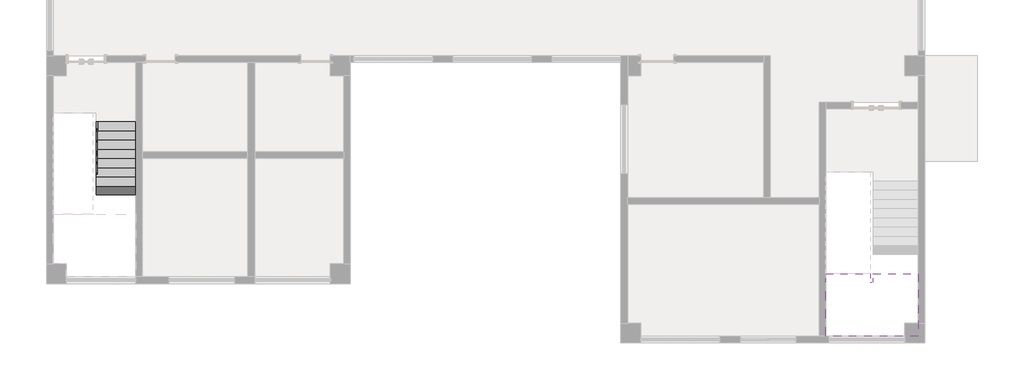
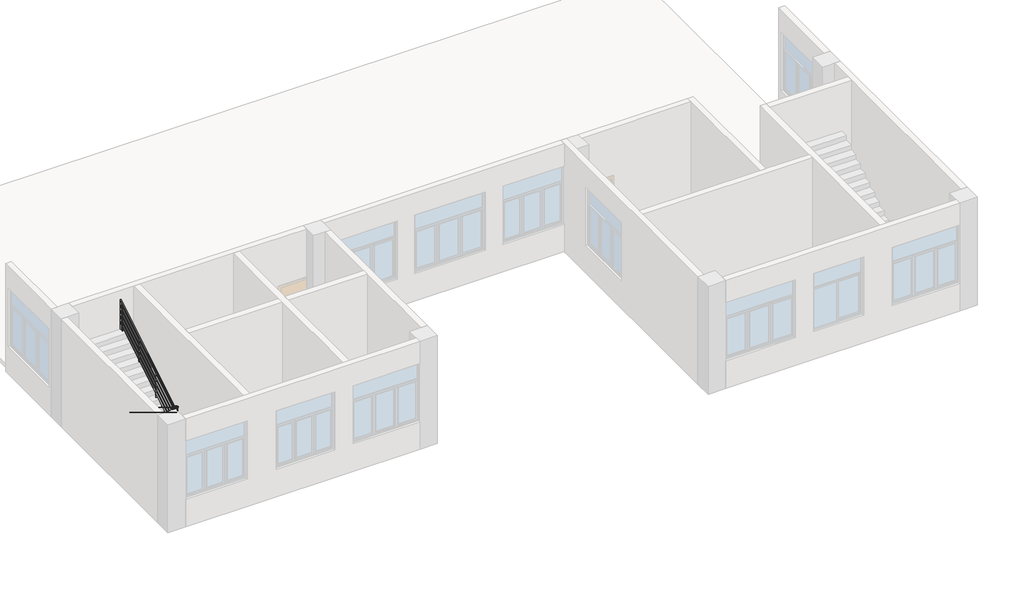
# One storey, part 2 of 3: 1 railing, 1 slab, 1 stair flight.
"""IFC4 building model written with IfcOpenShell, lengths in millimetres."""

from ifc_helpers import new_model, si_unit, point, frame, frame_2d, origin, place, context, project, spatial, circle_curve, ellipse_curve, trimmed, segment, composite_curve, outline, extrude, faceted_brep, element, save
from ifc_brep_helpers import plane_surface, cylinder_surface, advanced_brep

model = new_model("IFC4")

# Units and contexts
model_context = context("Model", 3, world=origin())
ifc_project = project(units=[si_unit("LENGTHUNIT", "METRE", prefix="MILLI")], contexts=[model_context])

# Site, building, storey
site = spatial("IfcSite", under=ifc_project)
building = spatial("IfcBuilding", under=site)
storey = spatial("IfcBuildingStorey", under=building, Name="标高 4", Elevation=7100.0)

# Railing
placement = place(None, origin())
element("IfcRailing", 1, ObjectType="900mm 圆管", at=placement, inside=storey, context=model_context, shape_type="SolidModel", body=[
    advanced_brep(
    [(-11176.3675258, -3836.6725016, 8146.183692), (-11136.3675258, -3836.6725016, 8146.183692), (-11176.3675258, -6629.9251242, 9837.7497212), (-11136.3675258, -6664.1401717, 9858.4700139)],
    [
        (0, 1, ellipse_curve(frame((-11156.3675258, -3836.6725016, 8146.183692), z_axis=(0.0, 1.0, 0.0), x_axis=(0.0, 0.0, -1.0)), 23.3815254, 20.0)),
        (1, 0, ellipse_curve(frame((-11156.3675258, -3836.6725016, 8146.183692), z_axis=(0.0, 1.0, 0.0), x_axis=(0.0, 0.0, -1.0)), 23.3815254, 20.0)),
        (2, 3, ellipse_curve(frame((-11156.3675258, -6647.032648, 9848.1098676), z_axis=(-0.707106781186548, -0.6048423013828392, 0.3662864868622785), x_axis=(-0.7071067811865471, 0.6048423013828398, -0.3662864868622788)), 28.2842712, 20.0)),
        (3, 2, ellipse_curve(frame((-11156.3675258, -6647.032648, 9848.1098676), z_axis=(-0.707106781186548, -0.6048423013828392, 0.3662864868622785), x_axis=(-0.7071067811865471, 0.6048423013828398, -0.3662864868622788)), 28.2842712, 20.0)),
        (0, 2),
        (3, 1),
    ],
    [
        plane_surface(frame((-11156.3675258, -3836.6725016, 8169.5652174), z_axis=(0.0, 1.0, 0.0), x_axis=(0.0, 0.0, -1.0))),
        plane_surface(frame((-11156.3675258, -6636.6725016, 9865.2173913), z_axis=(-0.707106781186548, -0.6048423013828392, 0.3662864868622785), x_axis=(0.7071067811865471, -0.60484230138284, 0.3662864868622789))),
        cylinder_surface(frame((-11156.3675258, -3847.032648, 8152.4576937), z_axis=(0.0, 0.8553761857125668, -0.518007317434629), x_axis=(1.0, 0.0, 0.0)), 20.0),
    ],
    [
        (0, [[1, 2]]),
        (1, [[3, 4]]),
        (2, [[-1, 5, -4, 6]]),
        (2, [[-2, -6, -3, -5]]),
    ],
),
    advanced_brep(
    [(-11183.8351959, -6642.0725016, 9845.2173913), (-11149.6201485, -6682.0725016, 9845.2173913), (-11307.1675258, -6642.0725016, 9845.2173913), (-11307.1675258, -6682.0725016, 9845.2173913)],
    [
        (0, 1, ellipse_curve(frame((-11166.7276722, -6662.0725016, 9845.2173913), z_axis=(0.707106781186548, 0.6048423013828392, -0.3662864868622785), x_axis=(0.707106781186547, -0.60484230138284, 0.36628648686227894)), 28.2842712, 20.0)),
        (1, 0, ellipse_curve(frame((-11166.7276722, -6662.0725016, 9845.2173913), z_axis=(0.707106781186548, 0.6048423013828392, -0.3662864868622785), x_axis=(0.707106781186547, -0.60484230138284, 0.36628648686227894)), 28.2842712, 20.0)),
        (2, 3, ellipse_curve(frame((-11307.1675258, -6662.0725016, 9845.2173913), z_axis=(-0.7071067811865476, 0.0, 0.7071067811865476), x_axis=(0.7071067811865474, 0.0, 0.7071067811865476)), 28.2842712, 20.0)),
        (3, 2, ellipse_curve(frame((-11307.1675258, -6662.0725016, 9845.2173913), z_axis=(-0.7071067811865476, 0.0, 0.7071067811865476), x_axis=(0.7071067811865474, 0.0, 0.7071067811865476)), 28.2842712, 20.0)),
        (0, 2),
        (3, 1),
    ],
    [
        plane_surface(frame((-11156.3675258, -6662.0725016, 9865.2173913), z_axis=(0.707106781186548, 0.6048423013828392, -0.3662864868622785), x_axis=(0.7071067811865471, -0.60484230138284, 0.3662864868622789))),
        plane_surface(frame((-11287.1675258, -6662.0725016, 9865.2173913), z_axis=(-0.7071067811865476, 0.0, 0.7071067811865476), x_axis=(0.7071067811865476, 0.0, 0.7071067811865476))),
        cylinder_surface(frame((-11156.3675258, -6662.0725016, 9845.2173913), z_axis=(1.0, 0.0, 0.0), x_axis=(0.0, -1.0, 0.0)), 20.0),
    ],
    [
        (0, [[1, 2]]),
        (1, [[3, 4]]),
        (2, [[-1, 5, -4, 6]]),
        (2, [[-2, -6, -3, -5]]),
    ],
),
    advanced_brep(
    [(-11307.1675258, -6642.0725016, 9845.2173913), (-11307.1675258, -6682.0725016, 9845.2173913), (-11307.1675258, -6642.0725016, 9984.7493716), (-11307.1675258, -6682.0725016, 10007.2888199)],
    [
        (0, 1, ellipse_curve(frame((-11307.1675258, -6662.0725016, 9845.2173913), z_axis=(0.7071067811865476, 0.0, -0.7071067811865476), x_axis=(-0.7071067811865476, 0.0, -0.7071067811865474)), 28.2842712, 20.0)),
        (1, 0, ellipse_curve(frame((-11307.1675258, -6662.0725016, 9845.2173913), z_axis=(0.7071067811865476, 0.0, -0.7071067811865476), x_axis=(-0.7071067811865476, 0.0, -0.7071067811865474)), 28.2842712, 20.0)),
        (2, 3, ellipse_curve(frame((-11307.1675258, -6662.0725016, 9996.0190957), z_axis=(0.0, 0.49091378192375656, 0.8712081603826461), x_axis=(0.0, 0.8712081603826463, -0.49091378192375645)), 22.9566261, 20.0)),
        (3, 2, ellipse_curve(frame((-11307.1675258, -6662.0725016, 9996.0190957), z_axis=(0.0, 0.49091378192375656, 0.8712081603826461), x_axis=(0.0, 0.8712081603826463, -0.49091378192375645)), 22.9566261, 20.0)),
        (0, 2),
        (3, 1),
    ],
    [
        plane_surface(frame((-11307.1675258, -6662.0725016, 9845.2173913), z_axis=(0.7071067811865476, 0.0, -0.7071067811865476), x_axis=(0.7071067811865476, 0.0, 0.7071067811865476))),
        plane_surface(frame((-11307.1675258, -6662.0725016, 9996.0190957), z_axis=(0.0, 0.49091378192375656, 0.8712081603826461), x_axis=(1.0, 0.0, 0.0))),
        cylinder_surface(frame((-11307.1675258, -6662.0725016, 9845.2173913), z_axis=(0.0, 0.0, -1.0), x_axis=(0.0, -1.0, 0.0)), 20.0),
    ],
    [
        (0, [[1, 2]]),
        (1, [[3, 4]]),
        (2, [[-1, 5, -4, 6]]),
        (2, [[-2, -6, -3, -5]]),
    ],
),
    advanced_brep(
    [(-11287.1675258, -6662.0725016, 9996.0190957), (-11327.1675258, -6662.0725016, 9996.0190957), (-11287.1675258, -3556.6725016, 11876.6184746), (-11327.1675258, -3556.6725016, 11876.6184746)],
    [
        (0, 1, ellipse_curve(frame((-11307.1675258, -6662.0725016, 9996.0190957), z_axis=(0.0, -0.49091378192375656, -0.8712081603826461), x_axis=(0.0, -0.8712081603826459, 0.4909137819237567)), 22.9566261, 20.0)),
        (1, 0, ellipse_curve(frame((-11307.1675258, -6662.0725016, 9996.0190957), z_axis=(0.0, -0.49091378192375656, -0.8712081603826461), x_axis=(0.0, -0.8712081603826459, 0.4909137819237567)), 22.9566261, 20.0)),
        (2, 3, ellipse_curve(frame((-11307.1675258, -3556.6725016, 11876.6184746), z_axis=(0.0, 1.0, 0.0), x_axis=(0.0, 0.0, -1.0)), 23.3815254, 20.0)),
        (3, 2, ellipse_curve(frame((-11307.1675258, -3556.6725016, 11876.6184746), z_axis=(0.0, 1.0, 0.0), x_axis=(0.0, 0.0, -1.0)), 23.3815254, 20.0)),
        (0, 2),
        (3, 1),
    ],
    [
        plane_surface(frame((-11307.1675258, -6682.0725016, 10007.2888199), z_axis=(0.0, -0.49091378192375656, -0.8712081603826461), x_axis=(1.0, 0.0, 0.0))),
        plane_surface(frame((-11307.1675258, -3556.6725016, 11900.0), z_axis=(0.0, 1.0, 0.0), x_axis=(0.0, 0.0, 1.0))),
        cylinder_surface(frame((-11307.1675258, -6671.7123553, 9990.1812962), z_axis=(0.0, -0.8553761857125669, -0.5180073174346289), x_axis=(-1.0, 0.0, 0.0)), 20.0),
    ],
    [
        (0, [[1, 2]]),
        (1, [[3, 4]]),
        (2, [[-1, 5, -4, 6]]),
        (2, [[-2, -6, -3, -5]]),
    ],
),
    advanced_brep(
    [(-11141.3675258, -3836.6725016, 7952.0290734), (-11171.3675258, -3836.6725016, 7952.0290734), (-11141.3675258, -6640.8603907, 9650.2173913), (-11171.3675258, -6640.8603907, 9650.2173913), (-11141.3675258, -6647.0725016, 9650.2173913), (-11171.3675258, -6647.0725016, 9650.2173913)],
    [
        (0, 1, ellipse_curve(frame((-11156.3675258, -3836.6725016, 7952.0290734), z_axis=(0.0, 1.0, 0.0), x_axis=(0.0, 0.0, -1.0)), 17.536144, 15.0)),
        (1, 0, ellipse_curve(frame((-11156.3675258, -3836.6725016, 7952.0290734), z_axis=(0.0, 1.0, 0.0), x_axis=(0.0, 0.0, -1.0)), 17.536144, 15.0)),
        (0, 2),
        (2, 3, ellipse_curve(frame((-11156.3675258, -6640.8603907, 9650.2173913), z_axis=(0.0, 0.9631656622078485, -0.26890873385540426), x_axis=(0.0, -0.26890873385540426, -0.9631656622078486)), 15.5736449, 15.0)),
        (3, 1),
        (3, 2, ellipse_curve(frame((-11156.3675258, -6640.8603907, 9650.2173913), z_axis=(0.0, 0.9631656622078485, -0.26890873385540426), x_axis=(0.0, -0.26890873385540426, -0.9631656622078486)), 15.5736449, 15.0)),
        (4, 5, circle_curve(frame((-11156.3675258, -6647.0725016, 9650.2173913), z_axis=(0.0, -1.0, 0.0), x_axis=(-1.0, 0.0, 0.0)), 15.0)),
        (5, 4, circle_curve(frame((-11156.3675258, -6647.0725016, 9650.2173913), z_axis=(0.0, -1.0, 0.0), x_axis=(-1.0, 0.0, 0.0)), 15.0)),
        (2, 4),
        (5, 3),
    ],
    [
        plane_surface(frame((-11156.3675258, -3836.6725016, 7969.5652174), z_axis=(0.0, 1.0, 0.0), x_axis=(0.0, 0.0, -1.0))),
        cylinder_surface(frame((-11156.3675258, -3844.4426114, 7956.7345746), z_axis=(0.0, 0.8553761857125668, -0.518007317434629), x_axis=(-1.0, 0.0, 0.0)), 15.0),
        plane_surface(frame((-11156.3675258, -6647.0725016, 9665.2173913), z_axis=(0.0, -1.0, 0.0), x_axis=(0.0, 0.0, -1.0))),
        cylinder_surface(frame((-11156.3675258, -6636.6725016, 9650.2173913), z_axis=(0.0, 1.0, 0.0), x_axis=(-1.0, 0.0, 0.0)), 15.0),
    ],
    [
        (0, [[1, 2]]),
        (1, [[-1, 3, 4, 5]]),
        (1, [[-2, -5, 6, -3]]),
        (2, [[7, 8]]),
        (3, [[-4, 9, -8, 10]]),
        (3, [[-6, -10, -7, -9]]),
    ],
),
    advanced_brep(
    [(-11141.3675258, -3836.6725016, 7752.0290734), (-11171.3675258, -3836.6725016, 7752.0290734), (-11141.3675258, -6640.8603907, 9450.2173913), (-11171.3675258, -6640.8603907, 9450.2173913), (-11141.3675258, -6647.0725016, 9450.2173913), (-11171.3675258, -6647.0725016, 9450.2173913)],
    [
        (0, 1, ellipse_curve(frame((-11156.3675258, -3836.6725016, 7752.0290734), z_axis=(0.0, 1.0, 0.0), x_axis=(0.0, 0.0, -1.0)), 17.536144, 15.0)),
        (1, 0, ellipse_curve(frame((-11156.3675258, -3836.6725016, 7752.0290734), z_axis=(0.0, 1.0, 0.0), x_axis=(0.0, 0.0, -1.0)), 17.536144, 15.0)),
        (0, 2),
        (2, 3, ellipse_curve(frame((-11156.3675258, -6640.8603907, 9450.2173913), z_axis=(0.0, 0.9631656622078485, -0.26890873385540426), x_axis=(0.0, -0.26890873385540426, -0.9631656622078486)), 15.5736449, 15.0)),
        (3, 1),
        (3, 2, ellipse_curve(frame((-11156.3675258, -6640.8603907, 9450.2173913), z_axis=(0.0, 0.9631656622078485, -0.26890873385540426), x_axis=(0.0, -0.26890873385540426, -0.9631656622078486)), 15.5736449, 15.0)),
        (4, 5, circle_curve(frame((-11156.3675258, -6647.0725016, 9450.2173913), z_axis=(0.0, -1.0, 0.0), x_axis=(-1.0, 0.0, 0.0)), 15.0)),
        (5, 4, circle_curve(frame((-11156.3675258, -6647.0725016, 9450.2173913), z_axis=(0.0, -1.0, 0.0), x_axis=(-1.0, 0.0, 0.0)), 15.0)),
        (2, 4),
        (5, 3),
    ],
    [
        plane_surface(frame((-11156.3675258, -3836.6725016, 7769.5652174), z_axis=(0.0, 1.0, 0.0), x_axis=(0.0, 0.0, -1.0))),
        cylinder_surface(frame((-11156.3675258, -3844.4426114, 7756.7345746), z_axis=(0.0, 0.8553761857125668, -0.518007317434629), x_axis=(-1.0, 0.0, 0.0)), 15.0),
        plane_surface(frame((-11156.3675258, -6647.0725016, 9465.2173913), z_axis=(0.0, -1.0, 0.0), x_axis=(0.0, 0.0, -1.0))),
        cylinder_surface(frame((-11156.3675258, -6636.6725016, 9450.2173913), z_axis=(0.0, 1.0, 0.0), x_axis=(-1.0, 0.0, 0.0)), 15.0),
    ],
    [
        (0, [[1, 2]]),
        (1, [[-1, 3, 4, 5]]),
        (1, [[-2, -5, 6, -3]]),
        (2, [[7, 8]]),
        (3, [[-4, 9, -8, 10]]),
        (3, [[-6, -10, -7, -9]]),
    ],
),
    advanced_brep(
    [(-11141.3675258, -3836.6725016, 7552.0290734), (-11171.3675258, -3836.6725016, 7552.0290734), (-11141.3675258, -6640.8603907, 9250.2173913), (-11171.3675258, -6640.8603907, 9250.2173913), (-11141.3675258, -6647.0725016, 9250.2173913), (-11171.3675258, -6647.0725016, 9250.2173913)],
    [
        (0, 1, ellipse_curve(frame((-11156.3675258, -3836.6725016, 7552.0290734), z_axis=(0.0, 1.0, 0.0), x_axis=(0.0, 0.0, -1.0)), 17.536144, 15.0)),
        (1, 0, ellipse_curve(frame((-11156.3675258, -3836.6725016, 7552.0290734), z_axis=(0.0, 1.0, 0.0), x_axis=(0.0, 0.0, -1.0)), 17.536144, 15.0)),
        (0, 2),
        (2, 3, ellipse_curve(frame((-11156.3675258, -6640.8603907, 9250.2173913), z_axis=(0.0, 0.9631656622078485, -0.26890873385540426), x_axis=(0.0, -0.26890873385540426, -0.9631656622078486)), 15.5736449, 15.0)),
        (3, 1),
        (3, 2, ellipse_curve(frame((-11156.3675258, -6640.8603907, 9250.2173913), z_axis=(0.0, 0.9631656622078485, -0.26890873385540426), x_axis=(0.0, -0.26890873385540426, -0.9631656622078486)), 15.5736449, 15.0)),
        (4, 5, circle_curve(frame((-11156.3675258, -6647.0725016, 9250.2173913), z_axis=(0.0, -1.0, 0.0), x_axis=(-1.0, 0.0, 0.0)), 15.0)),
        (5, 4, circle_curve(frame((-11156.3675258, -6647.0725016, 9250.2173913), z_axis=(0.0, -1.0, 0.0), x_axis=(-1.0, 0.0, 0.0)), 15.0)),
        (2, 4),
        (5, 3),
    ],
    [
        plane_surface(frame((-11156.3675258, -3836.6725016, 7569.5652174), z_axis=(0.0, 1.0, 0.0), x_axis=(0.0, 0.0, -1.0))),
        cylinder_surface(frame((-11156.3675258, -3844.4426114, 7556.7345746), z_axis=(0.0, 0.8553761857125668, -0.518007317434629), x_axis=(-1.0, 0.0, 0.0)), 15.0),
        plane_surface(frame((-11156.3675258, -6647.0725016, 9265.2173913), z_axis=(0.0, -1.0, 0.0), x_axis=(0.0, 0.0, -1.0))),
        cylinder_surface(frame((-11156.3675258, -6636.6725016, 9250.2173913), z_axis=(0.0, 1.0, 0.0), x_axis=(-1.0, 0.0, 0.0)), 15.0),
    ],
    [
        (0, [[1, 2]]),
        (1, [[-1, 3, 4, 5]]),
        (1, [[-2, -5, 6, -3]]),
        (2, [[7, 8]]),
        (3, [[-4, 9, -8, 10]]),
        (3, [[-6, -10, -7, -9]]),
    ],
),
    advanced_brep(
    [(-11141.3675258, -3836.6725016, 7352.0290734), (-11171.3675258, -3836.6725016, 7352.0290734), (-11141.3675258, -6640.8603907, 9050.2173913), (-11171.3675258, -6640.8603907, 9050.2173913), (-11141.3675258, -6647.0725016, 9050.2173913), (-11171.3675258, -6647.0725016, 9050.2173913)],
    [
        (0, 1, ellipse_curve(frame((-11156.3675258, -3836.6725016, 7352.0290734), z_axis=(0.0, 1.0, 0.0), x_axis=(0.0, 0.0, -1.0)), 17.536144, 15.0)),
        (1, 0, ellipse_curve(frame((-11156.3675258, -3836.6725016, 7352.0290734), z_axis=(0.0, 1.0, 0.0), x_axis=(0.0, 0.0, -1.0)), 17.536144, 15.0)),
        (0, 2),
        (2, 3, ellipse_curve(frame((-11156.3675258, -6640.8603907, 9050.2173913), z_axis=(0.0, 0.9631656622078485, -0.26890873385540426), x_axis=(0.0, -0.26890873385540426, -0.9631656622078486)), 15.5736449, 15.0)),
        (3, 1),
        (3, 2, ellipse_curve(frame((-11156.3675258, -6640.8603907, 9050.2173913), z_axis=(0.0, 0.9631656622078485, -0.26890873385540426), x_axis=(0.0, -0.26890873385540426, -0.9631656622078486)), 15.5736449, 15.0)),
        (4, 5, circle_curve(frame((-11156.3675258, -6647.0725016, 9050.2173913), z_axis=(0.0, -1.0, 0.0), x_axis=(-1.0, 0.0, 0.0)), 15.0)),
        (5, 4, circle_curve(frame((-11156.3675258, -6647.0725016, 9050.2173913), z_axis=(0.0, -1.0, 0.0), x_axis=(-1.0, 0.0, 0.0)), 15.0)),
        (2, 4),
        (5, 3),
    ],
    [
        plane_surface(frame((-11156.3675258, -3836.6725016, 7369.5652174), z_axis=(0.0, 1.0, 0.0), x_axis=(0.0, 0.0, -1.0))),
        cylinder_surface(frame((-11156.3675258, -3844.4426114, 7356.7345746), z_axis=(0.0, 0.8553761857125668, -0.518007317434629), x_axis=(-1.0, 0.0, 0.0)), 15.0),
        plane_surface(frame((-11156.3675258, -6647.0725016, 9065.2173913), z_axis=(0.0, -1.0, 0.0), x_axis=(0.0, 0.0, -1.0))),
        cylinder_surface(frame((-11156.3675258, -6636.6725016, 9050.2173913), z_axis=(0.0, 1.0, 0.0), x_axis=(-1.0, 0.0, 0.0)), 15.0),
    ],
    [
        (0, [[1, 2]]),
        (1, [[-1, 3, 4, 5]]),
        (1, [[-2, -5, 6, -3]]),
        (2, [[7, 8]]),
        (3, [[-4, 9, -8, 10]]),
        (3, [[-6, -10, -7, -9]]),
    ],
),
    advanced_brep(
    [(-11141.3675258, -6677.0725016, 9650.2173913), (-11141.3675258, -6647.0725016, 9650.2173913), (-11292.1675258, -6677.0725016, 9650.2173913), (-11292.1675258, -6647.0725016, 9650.2173913)],
    [
        (0, 1, circle_curve(frame((-11141.3675258, -6662.0725016, 9650.2173913), z_axis=(1.0, 0.0, 0.0), x_axis=(0.0, 1.0, 0.0)), 15.0)),
        (1, 0, circle_curve(frame((-11141.3675258, -6662.0725016, 9650.2173913), z_axis=(1.0, 0.0, 0.0), x_axis=(0.0, 1.0, 0.0)), 15.0)),
        (2, 3, circle_curve(frame((-11292.1675258, -6662.0725016, 9650.2173913), z_axis=(-1.0, 0.0, 0.0), x_axis=(0.0, 1.0, 0.0)), 15.0)),
        (3, 2, circle_curve(frame((-11292.1675258, -6662.0725016, 9650.2173913), z_axis=(-1.0, 0.0, 0.0), x_axis=(0.0, 1.0, 0.0)), 15.0)),
        (0, 2),
        (3, 1),
    ],
    [
        plane_surface(frame((-11141.3675258, -6662.0725016, 9665.2173913), z_axis=(1.0, 0.0, 0.0), x_axis=(0.0, -1.0, 0.0))),
        plane_surface(frame((-11292.1675258, -6662.0725016, 9665.2173913), z_axis=(-1.0, 0.0, 0.0), x_axis=(0.0, -1.0, 0.0))),
        cylinder_surface(frame((-11141.3675258, -6662.0725016, 9650.2173913), z_axis=(1.0, 0.0, 0.0), x_axis=(0.0, 1.0, 0.0)), 15.0),
    ],
    [
        (0, [[1, 2]]),
        (1, [[3, 4]]),
        (2, [[-1, 5, -4, 6]]),
        (2, [[-2, -6, -3, -5]]),
    ],
),
    advanced_brep(
    [(-11322.1675258, -6677.0725016, 9792.7806261), (-11292.1675258, -6677.0725016, 9792.7806261), (-11322.1675258, -3556.6725016, 11682.463856), (-11292.1675258, -3556.6725016, 11682.463856)],
    [
        (0, 1, ellipse_curve(frame((-11307.1675258, -6677.0725016, 9792.7806261), z_axis=(0.0, -1.0, 0.0), x_axis=(0.0, 0.0, -1.0)), 17.536144, 15.0)),
        (1, 0, ellipse_curve(frame((-11307.1675258, -6677.0725016, 9792.7806261), z_axis=(0.0, -1.0, 0.0), x_axis=(0.0, 0.0, -1.0)), 17.536144, 15.0)),
        (2, 3, ellipse_curve(frame((-11307.1675258, -3556.6725016, 11682.463856), z_axis=(0.0, 1.0, 0.0), x_axis=(0.0, 0.0, -1.0)), 17.536144, 15.0)),
        (3, 2, ellipse_curve(frame((-11307.1675258, -3556.6725016, 11682.463856), z_axis=(0.0, 1.0, 0.0), x_axis=(0.0, 0.0, -1.0)), 17.536144, 15.0)),
        (0, 2),
        (3, 1),
    ],
    [
        plane_surface(frame((-11307.1675258, -6677.0725016, 9810.3167702), z_axis=(0.0, -1.0, 0.0), x_axis=(0.0, 0.0, 1.0))),
        plane_surface(frame((-11307.1675258, -3556.6725016, 11700.0), z_axis=(0.0, 1.0, 0.0), x_axis=(0.0, 0.0, 1.0))),
        cylinder_surface(frame((-11307.1675258, -6669.3023918, 9797.4861274), z_axis=(0.0, -0.8553761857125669, -0.5180073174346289), x_axis=(1.0, 0.0, 0.0)), 15.0),
    ],
    [
        (0, [[1, 2]]),
        (1, [[3, 4]]),
        (2, [[-1, 5, -4, 6]]),
        (2, [[-2, -6, -3, -5]]),
    ],
),
    advanced_brep(
    [(-11141.3675258, -6677.0725016, 9450.2173913), (-11141.3675258, -6647.0725016, 9450.2173913), (-11292.1675258, -6677.0725016, 9450.2173913), (-11292.1675258, -6647.0725016, 9450.2173913)],
    [
        (0, 1, circle_curve(frame((-11141.3675258, -6662.0725016, 9450.2173913), z_axis=(1.0, 0.0, 0.0), x_axis=(0.0, 1.0, 0.0)), 15.0)),
        (1, 0, circle_curve(frame((-11141.3675258, -6662.0725016, 9450.2173913), z_axis=(1.0, 0.0, 0.0), x_axis=(0.0, 1.0, 0.0)), 15.0)),
        (2, 3, circle_curve(frame((-11292.1675258, -6662.0725016, 9450.2173913), z_axis=(-1.0, 0.0, 0.0), x_axis=(0.0, 1.0, 0.0)), 15.0)),
        (3, 2, circle_curve(frame((-11292.1675258, -6662.0725016, 9450.2173913), z_axis=(-1.0, 0.0, 0.0), x_axis=(0.0, 1.0, 0.0)), 15.0)),
        (0, 2),
        (3, 1),
    ],
    [
        plane_surface(frame((-11141.3675258, -6662.0725016, 9465.2173913), z_axis=(1.0, 0.0, 0.0), x_axis=(0.0, -1.0, 0.0))),
        plane_surface(frame((-11292.1675258, -6662.0725016, 9465.2173913), z_axis=(-1.0, 0.0, 0.0), x_axis=(0.0, -1.0, 0.0))),
        cylinder_surface(frame((-11141.3675258, -6662.0725016, 9450.2173913), z_axis=(1.0, 0.0, 0.0), x_axis=(0.0, 1.0, 0.0)), 15.0),
    ],
    [
        (0, [[1, 2]]),
        (1, [[3, 4]]),
        (2, [[-1, 5, -4, 6]]),
        (2, [[-2, -6, -3, -5]]),
    ],
),
    advanced_brep(
    [(-11322.1675258, -6677.0725016, 9592.7806261), (-11292.1675258, -6677.0725016, 9592.7806261), (-11322.1675258, -3556.6725016, 11482.463856), (-11292.1675258, -3556.6725016, 11482.463856)],
    [
        (0, 1, ellipse_curve(frame((-11307.1675258, -6677.0725016, 9592.7806261), z_axis=(0.0, -1.0, 0.0), x_axis=(0.0, 0.0, -1.0)), 17.536144, 15.0)),
        (1, 0, ellipse_curve(frame((-11307.1675258, -6677.0725016, 9592.7806261), z_axis=(0.0, -1.0, 0.0), x_axis=(0.0, 0.0, -1.0)), 17.536144, 15.0)),
        (2, 3, ellipse_curve(frame((-11307.1675258, -3556.6725016, 11482.463856), z_axis=(0.0, 1.0, 0.0), x_axis=(0.0, 0.0, -1.0)), 17.536144, 15.0)),
        (3, 2, ellipse_curve(frame((-11307.1675258, -3556.6725016, 11482.463856), z_axis=(0.0, 1.0, 0.0), x_axis=(0.0, 0.0, -1.0)), 17.536144, 15.0)),
        (0, 2),
        (3, 1),
    ],
    [
        plane_surface(frame((-11307.1675258, -6677.0725016, 9610.3167702), z_axis=(0.0, -1.0, 0.0), x_axis=(0.0, 0.0, 1.0))),
        plane_surface(frame((-11307.1675258, -3556.6725016, 11500.0), z_axis=(0.0, 1.0, 0.0), x_axis=(0.0, 0.0, 1.0))),
        cylinder_surface(frame((-11307.1675258, -6669.3023918, 9597.4861274), z_axis=(0.0, -0.8553761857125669, -0.5180073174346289), x_axis=(1.0, 0.0, 0.0)), 15.0),
    ],
    [
        (0, [[1, 2]]),
        (1, [[3, 4]]),
        (2, [[-1, 5, -4, 6]]),
        (2, [[-2, -6, -3, -5]]),
    ],
),
    advanced_brep(
    [(-11141.3675258, -6677.0725016, 9250.2173913), (-11141.3675258, -6647.0725016, 9250.2173913), (-11292.1675258, -6677.0725016, 9250.2173913), (-11292.1675258, -6647.0725016, 9250.2173913)],
    [
        (0, 1, circle_curve(frame((-11141.3675258, -6662.0725016, 9250.2173913), z_axis=(1.0, 0.0, 0.0), x_axis=(0.0, 1.0, 0.0)), 15.0)),
        (1, 0, circle_curve(frame((-11141.3675258, -6662.0725016, 9250.2173913), z_axis=(1.0, 0.0, 0.0), x_axis=(0.0, 1.0, 0.0)), 15.0)),
        (2, 3, circle_curve(frame((-11292.1675258, -6662.0725016, 9250.2173913), z_axis=(-1.0, 0.0, 0.0), x_axis=(0.0, 1.0, 0.0)), 15.0)),
        (3, 2, circle_curve(frame((-11292.1675258, -6662.0725016, 9250.2173913), z_axis=(-1.0, 0.0, 0.0), x_axis=(0.0, 1.0, 0.0)), 15.0)),
        (0, 2),
        (3, 1),
    ],
    [
        plane_surface(frame((-11141.3675258, -6662.0725016, 9265.2173913), z_axis=(1.0, 0.0, 0.0), x_axis=(0.0, -1.0, 0.0))),
        plane_surface(frame((-11292.1675258, -6662.0725016, 9265.2173913), z_axis=(-1.0, 0.0, 0.0), x_axis=(0.0, -1.0, 0.0))),
        cylinder_surface(frame((-11141.3675258, -6662.0725016, 9250.2173913), z_axis=(1.0, 0.0, 0.0), x_axis=(0.0, 1.0, 0.0)), 15.0),
    ],
    [
        (0, [[1, 2]]),
        (1, [[3, 4]]),
        (2, [[-1, 5, -4, 6]]),
        (2, [[-2, -6, -3, -5]]),
    ],
),
    advanced_brep(
    [(-11322.1675258, -6677.0725016, 9392.7806261), (-11292.1675258, -6677.0725016, 9392.7806261), (-11322.1675258, -3556.6725016, 11282.463856), (-11292.1675258, -3556.6725016, 11282.463856)],
    [
        (0, 1, ellipse_curve(frame((-11307.1675258, -6677.0725016, 9392.7806261), z_axis=(0.0, -1.0, 0.0), x_axis=(0.0, 0.0, -1.0)), 17.536144, 15.0)),
        (1, 0, ellipse_curve(frame((-11307.1675258, -6677.0725016, 9392.7806261), z_axis=(0.0, -1.0, 0.0), x_axis=(0.0, 0.0, -1.0)), 17.536144, 15.0)),
        (2, 3, ellipse_curve(frame((-11307.1675258, -3556.6725016, 11282.463856), z_axis=(0.0, 1.0, 0.0), x_axis=(0.0, 0.0, -1.0)), 17.536144, 15.0)),
        (3, 2, ellipse_curve(frame((-11307.1675258, -3556.6725016, 11282.463856), z_axis=(0.0, 1.0, 0.0), x_axis=(0.0, 0.0, -1.0)), 17.536144, 15.0)),
        (0, 2),
        (3, 1),
    ],
    [
        plane_surface(frame((-11307.1675258, -6677.0725016, 9410.3167702), z_axis=(0.0, -1.0, 0.0), x_axis=(0.0, 0.0, 1.0))),
        plane_surface(frame((-11307.1675258, -3556.6725016, 11300.0), z_axis=(0.0, 1.0, 0.0), x_axis=(0.0, 0.0, 1.0))),
        cylinder_surface(frame((-11307.1675258, -6669.3023918, 9397.4861274), z_axis=(0.0, -0.8553761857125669, -0.5180073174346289), x_axis=(1.0, 0.0, 0.0)), 15.0),
    ],
    [
        (0, [[1, 2]]),
        (1, [[3, 4]]),
        (2, [[-1, 5, -4, 6]]),
        (2, [[-2, -6, -3, -5]]),
    ],
),
    advanced_brep(
    [(-11141.3675258, -6677.0725016, 9050.2173913), (-11141.3675258, -6647.0725016, 9050.2173913), (-11292.1675258, -6677.0725016, 9050.2173913), (-11292.1675258, -6647.0725016, 9050.2173913)],
    [
        (0, 1, circle_curve(frame((-11141.3675258, -6662.0725016, 9050.2173913), z_axis=(1.0, 0.0, 0.0), x_axis=(0.0, 1.0, 0.0)), 15.0)),
        (1, 0, circle_curve(frame((-11141.3675258, -6662.0725016, 9050.2173913), z_axis=(1.0, 0.0, 0.0), x_axis=(0.0, 1.0, 0.0)), 15.0)),
        (2, 3, circle_curve(frame((-11292.1675258, -6662.0725016, 9050.2173913), z_axis=(-1.0, 0.0, 0.0), x_axis=(0.0, 1.0, 0.0)), 15.0)),
        (3, 2, circle_curve(frame((-11292.1675258, -6662.0725016, 9050.2173913), z_axis=(-1.0, 0.0, 0.0), x_axis=(0.0, 1.0, 0.0)), 15.0)),
        (0, 2),
        (3, 1),
    ],
    [
        plane_surface(frame((-11141.3675258, -6662.0725016, 9065.2173913), z_axis=(1.0, 0.0, 0.0), x_axis=(0.0, -1.0, 0.0))),
        plane_surface(frame((-11292.1675258, -6662.0725016, 9065.2173913), z_axis=(-1.0, 0.0, 0.0), x_axis=(0.0, -1.0, 0.0))),
        cylinder_surface(frame((-11141.3675258, -6662.0725016, 9050.2173913), z_axis=(1.0, 0.0, 0.0), x_axis=(0.0, 1.0, 0.0)), 15.0),
    ],
    [
        (0, [[1, 2]]),
        (1, [[3, 4]]),
        (2, [[-1, 5, -4, 6]]),
        (2, [[-2, -6, -3, -5]]),
    ],
),
    advanced_brep(
    [(-11322.1675258, -6677.0725016, 9192.7806261), (-11292.1675258, -6677.0725016, 9192.7806261), (-11322.1675258, -3556.6725016, 11082.463856), (-11292.1675258, -3556.6725016, 11082.463856)],
    [
        (0, 1, ellipse_curve(frame((-11307.1675258, -6677.0725016, 9192.7806261), z_axis=(0.0, -1.0, 0.0), x_axis=(0.0, 0.0, -1.0)), 17.536144, 15.0)),
        (1, 0, ellipse_curve(frame((-11307.1675258, -6677.0725016, 9192.7806261), z_axis=(0.0, -1.0, 0.0), x_axis=(0.0, 0.0, -1.0)), 17.536144, 15.0)),
        (2, 3, ellipse_curve(frame((-11307.1675258, -3556.6725016, 11082.463856), z_axis=(0.0, 1.0, 0.0), x_axis=(0.0, 0.0, -1.0)), 17.536144, 15.0)),
        (3, 2, ellipse_curve(frame((-11307.1675258, -3556.6725016, 11082.463856), z_axis=(0.0, 1.0, 0.0), x_axis=(0.0, 0.0, -1.0)), 17.536144, 15.0)),
        (0, 2),
        (3, 1),
    ],
    [
        plane_surface(frame((-11307.1675258, -6677.0725016, 9210.3167702), z_axis=(0.0, -1.0, 0.0), x_axis=(0.0, 0.0, 1.0))),
        plane_surface(frame((-11307.1675258, -3556.6725016, 11100.0), z_axis=(0.0, 1.0, 0.0), x_axis=(0.0, 0.0, 1.0))),
        cylinder_surface(frame((-11307.1675258, -6669.3023918, 9197.4861274), z_axis=(0.0, -0.8553761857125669, -0.5180073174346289), x_axis=(1.0, 0.0, 0.0)), 15.0),
    ],
    [
        (0, [[1, 2]]),
        (1, [[3, 4]]),
        (2, [[-1, 5, -4, 6]]),
        (2, [[-2, -6, -3, -5]]),
    ],
),
    advanced_brep(
    [(-11294.6675258, -3662.0725016, 11789.4077567), (-11294.6675258, -3662.0725016, 10830.4347826), (-11319.6675258, -3662.0725016, 10830.4347826), (-11319.6675258, -3662.0725016, 11789.4077567)],
    [
        (0, 1),
        (1, 2, circle_curve(frame((-11307.1675258, -3662.0725016, 10830.4347826), z_axis=(0.0, 0.0, 1.0), x_axis=(-1.0, 0.0, 0.0)), 12.5)),
        (2, 3),
        (3, 0, ellipse_curve(frame((-11307.1675258, -3662.0725016, 11789.4077567), z_axis=(0.0, 0.5180073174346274, -0.8553761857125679), x_axis=(0.0, 0.8553761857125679, 0.5180073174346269)), 14.6134534, 12.5)),
        (0, 3, ellipse_curve(frame((-11307.1675258, -3662.0725016, 11789.4077567), z_axis=(0.0, 0.5180073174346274, -0.8553761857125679), x_axis=(0.0, 0.8553761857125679, 0.5180073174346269)), 14.6134534, 12.5)),
        (2, 1, circle_curve(frame((-11307.1675258, -3662.0725016, 10830.4347826), z_axis=(0.0, 0.0, 1.0), x_axis=(-1.0, 0.0, 0.0)), 12.5)),
    ],
    [
        cylinder_surface(frame((-11307.1675258, -3662.0725016, 10730.4347826), z_axis=(0.0, 0.0, 1.0), x_axis=(-1.0, 0.0, 0.0)), 12.5),
        plane_surface(frame((-11332.1675258, -3637.0725016, 11804.5475082), z_axis=(0.0, -0.5180073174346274, 0.8553761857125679), x_axis=(1.0, 0.0, 0.0))),
        plane_surface(frame((-11332.1675258, -3687.0725016, 10830.4347826), z_axis=(0.0, 0.0, -1.0), x_axis=(1.0, 0.0, 0.0))),
    ],
    [
        (0, [[1, 2, 3, 4]]),
        (0, [[-1, 5, -3, 6]]),
        (1, [[-4, -5]]),
        (2, [[-2, -6]]),
    ],
),
    advanced_brep(
    [(-11294.6675258, -4662.0725016, 11183.8176946), (-11294.6675258, -4662.0725016, 10321.7391304), (-11319.6675258, -4662.0725016, 10321.7391304), (-11319.6675258, -4662.0725016, 11183.8176946)],
    [
        (0, 1),
        (1, 2, circle_curve(frame((-11307.1675258, -4662.0725016, 10321.7391304), z_axis=(0.0, 0.0, 1.0), x_axis=(-1.0, 0.0, 0.0)), 12.5)),
        (2, 3),
        (3, 0, ellipse_curve(frame((-11307.1675258, -4662.0725016, 11183.8176946), z_axis=(0.0, 0.518007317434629, -0.8553761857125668), x_axis=(0.0, 0.8553761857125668, 0.5180073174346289)), 14.6134534, 12.5)),
        (0, 3, ellipse_curve(frame((-11307.1675258, -4662.0725016, 11183.8176946), z_axis=(0.0, 0.518007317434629, -0.8553761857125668), x_axis=(0.0, 0.8553761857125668, 0.5180073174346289)), 14.6134534, 12.5)),
        (2, 1, circle_curve(frame((-11307.1675258, -4662.0725016, 10321.7391304), z_axis=(0.0, 0.0, 1.0), x_axis=(-1.0, 0.0, 0.0)), 12.5)),
    ],
    [
        cylinder_surface(frame((-11307.1675258, -4662.0725016, 10221.7391304), z_axis=(0.0, 0.0, 1.0), x_axis=(-1.0, 0.0, 0.0)), 12.5),
        plane_surface(frame((-11332.1675258, -4637.0725016, 11198.9574461), z_axis=(0.0, -0.518007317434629, 0.8553761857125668), x_axis=(1.0, 0.0, 0.0))),
        plane_surface(frame((-11332.1675258, -4687.0725016, 10321.7391304), z_axis=(0.0, 0.0, -1.0), x_axis=(1.0, 0.0, 0.0))),
    ],
    [
        (0, [[1, 2, 3, 4]]),
        (0, [[-1, 5, -3, 6]]),
        (1, [[-4, -5]]),
        (2, [[-2, -6]]),
    ],
),
    advanced_brep(
    [(-11294.6675258, -5662.0725016, 10578.2276325), (-11294.6675258, -5662.0725016, 9643.4782609), (-11319.6675258, -5662.0725016, 9643.4782609), (-11319.6675258, -5662.0725016, 10578.2276325)],
    [
        (0, 1),
        (1, 2, circle_curve(frame((-11307.1675258, -5662.0725016, 9643.4782609), z_axis=(0.0, 0.0, 1.0), x_axis=(-1.0, 0.0, 0.0)), 12.5)),
        (2, 3),
        (3, 0, ellipse_curve(frame((-11307.1675258, -5662.0725016, 10578.2276325), z_axis=(0.0, 0.518007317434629, -0.8553761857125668), x_axis=(0.0, 0.8553761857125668, 0.5180073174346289)), 14.6134534, 12.5)),
        (0, 3, ellipse_curve(frame((-11307.1675258, -5662.0725016, 10578.2276325), z_axis=(0.0, 0.518007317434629, -0.8553761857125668), x_axis=(0.0, 0.8553761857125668, 0.5180073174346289)), 14.6134534, 12.5)),
        (2, 1, circle_curve(frame((-11307.1675258, -5662.0725016, 9643.4782609), z_axis=(0.0, 0.0, 1.0), x_axis=(-1.0, 0.0, 0.0)), 12.5)),
    ],
    [
        cylinder_surface(frame((-11307.1675258, -5662.0725016, 9543.4782609), z_axis=(0.0, 0.0, 1.0), x_axis=(-1.0, 0.0, 0.0)), 12.5),
        plane_surface(frame((-11332.1675258, -5637.0725016, 10593.367384), z_axis=(0.0, -0.518007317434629, 0.8553761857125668), x_axis=(1.0, 0.0, 0.0))),
        plane_surface(frame((-11332.1675258, -5687.0725016, 9643.4782609), z_axis=(0.0, 0.0, -1.0), x_axis=(1.0, 0.0, 0.0))),
    ],
    [
        (0, [[1, 2, 3, 4]]),
        (0, [[-1, 5, -3, 6]]),
        (1, [[-4, -5]]),
        (2, [[-2, -6]]),
    ],
),
    advanced_brep(
    [(-11168.8675258, -5836.6725016, 9333.9822908), (-11168.8675258, -5836.6725016, 8456.5217391), (-11143.8675258, -5836.6725016, 8456.5217391), (-11143.8675258, -5836.6725016, 9333.9822908)],
    [
        (0, 1),
        (1, 2, circle_curve(frame((-11156.3675258, -5836.6725016, 8456.5217391), z_axis=(0.0, 0.0, 1.0), x_axis=(1.0, 0.0, 0.0)), 12.5)),
        (2, 3),
        (3, 0, ellipse_curve(frame((-11156.3675258, -5836.6725016, 9333.9822908), z_axis=(0.0, -0.5180073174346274, -0.8553761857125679), x_axis=(0.0, -0.8553761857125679, 0.5180073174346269)), 14.6134534, 12.5)),
        (0, 3, ellipse_curve(frame((-11156.3675258, -5836.6725016, 9333.9822908), z_axis=(0.0, -0.5180073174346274, -0.8553761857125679), x_axis=(0.0, -0.8553761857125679, 0.5180073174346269)), 14.6134534, 12.5)),
        (2, 1, circle_curve(frame((-11156.3675258, -5836.6725016, 8456.5217391), z_axis=(0.0, 0.0, 1.0), x_axis=(1.0, 0.0, 0.0)), 12.5)),
    ],
    [
        cylinder_surface(frame((-11156.3675258, -5836.6725016, 8356.5217391), z_axis=(0.0, 0.0, 1.0), x_axis=(1.0, 0.0, 0.0)), 12.5),
        plane_surface(frame((-11131.3675258, -5861.6725016, 9349.1220424), z_axis=(0.0, 0.5180073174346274, 0.8553761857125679), x_axis=(-1.0, 0.0, 0.0))),
        plane_surface(frame((-11131.3675258, -5811.6725016, 8456.5217391), z_axis=(0.0, 0.0, -1.0), x_axis=(-1.0, 0.0, 0.0))),
    ],
    [
        (0, [[1, 2, 3, 4]]),
        (0, [[-1, 5, -3, 6]]),
        (1, [[-4, -5]]),
        (2, [[-2, -6]]),
    ],
),
    advanced_brep(
    [(-11168.8675258, -4836.6725016, 8728.3922287), (-11168.8675258, -4836.6725016, 7778.2608696), (-11143.8675258, -4836.6725016, 7778.2608696), (-11143.8675258, -4836.6725016, 8728.3922287)],
    [
        (0, 1),
        (1, 2, circle_curve(frame((-11156.3675258, -4836.6725016, 7778.2608696), z_axis=(0.0, 0.0, 1.0), x_axis=(1.0, 0.0, 0.0)), 12.5)),
        (2, 3),
        (3, 0, ellipse_curve(frame((-11156.3675258, -4836.6725016, 8728.3922287), z_axis=(0.0, -0.518007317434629, -0.8553761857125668), x_axis=(0.0, -0.8553761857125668, 0.5180073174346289)), 14.6134534, 12.5)),
        (0, 3, ellipse_curve(frame((-11156.3675258, -4836.6725016, 8728.3922287), z_axis=(0.0, -0.518007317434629, -0.8553761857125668), x_axis=(0.0, -0.8553761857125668, 0.5180073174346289)), 14.6134534, 12.5)),
        (2, 1, circle_curve(frame((-11156.3675258, -4836.6725016, 7778.2608696), z_axis=(0.0, 0.0, 1.0), x_axis=(1.0, 0.0, 0.0)), 12.5)),
    ],
    [
        cylinder_surface(frame((-11156.3675258, -4836.6725016, 7678.2608696), z_axis=(0.0, 0.0, 1.0), x_axis=(1.0, 0.0, 0.0)), 12.5),
        plane_surface(frame((-11131.3675258, -4861.6725016, 8743.5319803), z_axis=(0.0, 0.518007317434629, 0.8553761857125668), x_axis=(-1.0, 0.0, 0.0))),
        plane_surface(frame((-11131.3675258, -4811.6725016, 7778.2608696), z_axis=(0.0, 0.0, -1.0), x_axis=(-1.0, 0.0, 0.0))),
    ],
    [
        (0, [[1, 2, 3, 4]]),
        (0, [[-1, 5, -3, 6]]),
        (1, [[-4, -5]]),
        (2, [[-2, -6]]),
    ],
),
    extrude(outline(composite_curve([segment(trimmed(circle_curve(frame_2d((-11307.1675258, -6662.0725016)), 12.5), [point((-11307.1675258, -6674.5725016))], [point((-11307.1675258, -6649.5725016))], False, "CARTESIAN"), True, "CONTINUOUS"), segment(trimmed(circle_curve(frame_2d((-11307.1675258, -6662.0725016)), 12.5), [point((-11307.1675258, -6649.5725016))], [point((-11307.1675258, -6674.5725016))], False, "CARTESIAN"), True, "CONTINUOUS")], self_intersect=False)), frame((0.0, 0.0, 8965.2173913), z_axis=(0.0, 0.0, 1.0), x_axis=(1.0, 0.0, 0.0)), (0.0, 0.0, 1.0), 860.0),
    advanced_brep(
    [(-11168.8675258, -6662.0725016, 9833.8363281), (-11168.8675258, -6662.0725016, 8965.2173913), (-11143.8675258, -6662.0725016, 8965.2173913), (-11143.8675258, -6662.0725016, 9833.8363281)],
    [
        (0, 1),
        (1, 2, circle_curve(frame((-11156.3675258, -6662.0725016, 8965.2173913), z_axis=(0.0, 0.0, 1.0), x_axis=(1.0, 0.0, 0.0)), 12.5)),
        (2, 3),
        (3, 0, ellipse_curve(frame((-11156.3675258, -6662.0725016, 9833.8363281), z_axis=(0.0, -0.518007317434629, -0.8553761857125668), x_axis=(0.0, -0.8553761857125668, 0.5180073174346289)), 14.6134534, 12.5)),
        (0, 3, ellipse_curve(frame((-11156.3675258, -6662.0725016, 9833.8363281), z_axis=(0.0, -0.518007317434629, -0.8553761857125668), x_axis=(0.0, -0.8553761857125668, 0.5180073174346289)), 14.6134534, 12.5)),
        (2, 1, circle_curve(frame((-11156.3675258, -6662.0725016, 8965.2173913), z_axis=(0.0, 0.0, 1.0), x_axis=(1.0, 0.0, 0.0)), 12.5)),
    ],
    [
        cylinder_surface(frame((-11156.3675258, -6662.0725016, 8865.2173913), z_axis=(0.0, 0.0, 1.0), x_axis=(1.0, 0.0, 0.0)), 12.5),
        plane_surface(frame((-11131.3675258, -6687.0725016, 9848.9760797), z_axis=(0.0, 0.518007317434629, 0.8553761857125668), x_axis=(-1.0, 0.0, 0.0))),
        plane_surface(frame((-11131.3675258, -6637.0725016, 8965.2173913), z_axis=(0.0, 0.0, -1.0), x_axis=(-1.0, 0.0, 0.0))),
    ],
    [
        (0, [[1, 2, 3, 4]]),
        (0, [[-1, 5, -3, 6]]),
        (1, [[-4, -5]]),
        (2, [[-2, -6]]),
    ],
),
    advanced_brep(
    [(-11294.6675258, -3569.1725016, 11845.6670735), (-11294.6675258, -3569.1725016, 10830.4347826), (-11319.6675258, -3569.1725016, 10830.4347826), (-11319.6675258, -3569.1725016, 11845.6670735)],
    [
        (0, 1),
        (1, 2, circle_curve(frame((-11307.1675258, -3569.1725016, 10830.4347826), z_axis=(0.0, 0.0, 1.0), x_axis=(-1.0, 0.0, 0.0)), 12.5)),
        (2, 3),
        (3, 0, ellipse_curve(frame((-11307.1675258, -3569.1725016, 11845.6670735), z_axis=(0.0, 0.518007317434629, -0.8553761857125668), x_axis=(0.0, 0.8553761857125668, 0.5180073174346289)), 14.6134534, 12.5)),
        (0, 3, ellipse_curve(frame((-11307.1675258, -3569.1725016, 11845.6670735), z_axis=(0.0, 0.518007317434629, -0.8553761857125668), x_axis=(0.0, 0.8553761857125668, 0.5180073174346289)), 14.6134534, 12.5)),
        (2, 1, circle_curve(frame((-11307.1675258, -3569.1725016, 10830.4347826), z_axis=(0.0, 0.0, 1.0), x_axis=(-1.0, 0.0, 0.0)), 12.5)),
    ],
    [
        cylinder_surface(frame((-11307.1675258, -3569.1725016, 10730.4347826), z_axis=(0.0, 0.0, 1.0), x_axis=(-1.0, 0.0, 0.0)), 12.5),
        plane_surface(frame((-11332.1675258, -3544.1725016, 11860.806825), z_axis=(0.0, -0.518007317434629, 0.8553761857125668), x_axis=(1.0, 0.0, 0.0))),
        plane_surface(frame((-11332.1675258, -3594.1725016, 10830.4347826), z_axis=(0.0, 0.0, -1.0), x_axis=(1.0, 0.0, 0.0))),
    ],
    [
        (0, [[1, 2, 3, 4]]),
        (0, [[-1, 5, -3, 6]]),
        (1, [[-4, -5]]),
        (2, [[-2, -6]]),
    ],
),
    advanced_brep(
    [(-11168.8675258, -3849.1725016, 8130.3720424), (-11168.8675258, -3849.1725016, 7269.5652174), (-11143.8675258, -3849.1725016, 7269.5652174), (-11143.8675258, -3849.1725016, 8130.3720424)],
    [
        (0, 1),
        (1, 2, circle_curve(frame((-11156.3675258, -3849.1725016, 7269.5652174), z_axis=(0.0, 0.0, 1.0), x_axis=(1.0, 0.0, 0.0)), 12.5)),
        (2, 3),
        (3, 0, ellipse_curve(frame((-11156.3675258, -3849.1725016, 8130.3720424), z_axis=(0.0, -0.518007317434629, -0.8553761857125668), x_axis=(0.0, -0.8553761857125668, 0.5180073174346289)), 14.6134534, 12.5)),
        (0, 3, ellipse_curve(frame((-11156.3675258, -3849.1725016, 8130.3720424), z_axis=(0.0, -0.518007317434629, -0.8553761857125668), x_axis=(0.0, -0.8553761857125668, 0.5180073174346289)), 14.6134534, 12.5)),
        (2, 1, circle_curve(frame((-11156.3675258, -3849.1725016, 7269.5652174), z_axis=(0.0, 0.0, 1.0), x_axis=(1.0, 0.0, 0.0)), 12.5)),
    ],
    [
        cylinder_surface(frame((-11156.3675258, -3849.1725016, 7169.5652174), z_axis=(0.0, 0.0, 1.0), x_axis=(1.0, 0.0, 0.0)), 12.5),
        plane_surface(frame((-11131.3675258, -3874.1725016, 8145.511794), z_axis=(0.0, 0.518007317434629, 0.8553761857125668), x_axis=(-1.0, 0.0, 0.0))),
        plane_surface(frame((-11131.3675258, -3824.1725016, 7269.5652174), z_axis=(0.0, 0.0, -1.0), x_axis=(-1.0, 0.0, 0.0))),
    ],
    [
        (0, [[1, 2, 3, 4]]),
        (0, [[-1, 5, -3, 6]]),
        (1, [[-4, -5]]),
        (2, [[-2, -6]]),
    ],
),
])

# Slab
element("IfcSlab", 2, ObjectType="150", at=placement, inside=storey, context=model_context, shape_type="Brep", body=[
    faceted_brep([(12268.2324742, -8700.4001578, 8965.2173913), (12268.2324742, -8436.6725016, 8965.2173913), (10918.2324742, -8436.6725016, 8965.2173913), (10918.2324742, -8700.4001578, 8965.2173913), (10918.2324742, -10336.6725016, 8965.2173913), (13718.2324742, -10336.6725016, 8965.2173913), (13718.2324742, -8452.9448454, 8965.2173913), (13718.2324742, -8436.6725016, 8965.2173913), (12368.2324742, -8436.6725016, 8965.2173913), (12368.2324742, -8700.4001578, 8965.2173913), (13718.2324742, -8436.6725016, 8795.6521739), (13718.2324742, -8436.6725016, 8655.3630216), (12368.2324742, -8436.6725016, 8655.3630216), (12368.2324742, -8436.6725016, 8795.6521739), (12368.2324742, -8452.9448454, 8665.2173913), (12368.2324742, -8700.4001578, 8665.2173913), (10918.2324742, -8436.6725016, 8824.928239), (10918.2324742, -8700.4001578, 8665.2173913), (10918.2324742, -10336.6725016, 8665.2173913), (13718.2324742, -10336.6725016, 8665.2173913), (13718.2324742, -8452.9448454, 8665.2173913), (12268.2324742, -8700.4001578, 8665.2173913), (12268.2324742, -8436.6725016, 8824.928239)], [[[0, 1, 2, 3, 4, 5, 6, 7, 8, 9]], [[8, 7, 10, 11, 12, 13]], [[8, 13, 12, 14, 15, 9]], [[2, 16, 17, 18, 4, 3]], [[5, 4, 18, 19]], [[5, 19, 20, 11, 10, 7, 6]], [[15, 14, 20, 19, 18, 17, 21]], [[20, 14, 12, 11]], [[22, 21, 17, 16]], [[0, 21, 22, 1]], [[2, 1, 22, 16]], [[15, 21, 0, 9]]]),
])

# Stair flight
element("IfcStairFlight", 3, ObjectType="150", at=placement, inside=storey, context=model_context, shape_type="Brep", body=[
    faceted_brep([(-9981.7675258, -4116.6725016, 7269.5652174), (-9981.7675258, -3836.6725016, 7269.5652174), (-11181.7675258, -3836.6725016, 7269.5652174), (-11181.7675258, -4116.6725016, 7269.5652174), (-9981.7675258, -4116.6725016, 7129.2760651), (-9981.7675258, -4068.3294608, 7100.0), (-9981.7675258, -3836.6725016, 7100.0), (-11181.7675258, -3836.6725016, 7100.0), (-11181.7675258, -4068.3294608, 7100.0), (-11181.7675258, -4116.6725016, 7129.2760651), (-9981.7675258, -4396.6725016, 7439.1304348), (-9981.7675258, -4116.6725016, 7439.1304348), (-11181.7675258, -4116.6725016, 7439.1304348), (-11181.7675258, -4396.6725016, 7439.1304348), (-9981.7675258, -4396.6725016, 7298.8412825), (-11181.7675258, -4396.6725016, 7298.8412825), (-9981.7675258, -4676.6725016, 7608.6956522), (-9981.7675258, -4396.6725016, 7608.6956522), (-11181.7675258, -4396.6725016, 7608.6956522), (-11181.7675258, -4676.6725016, 7608.6956522), (-9981.7675258, -4676.6725016, 7468.4064999), (-11181.7675258, -4676.6725016, 7468.4064999), (-9981.7675258, -4956.6725016, 7778.2608696), (-9981.7675258, -4676.6725016, 7778.2608696), (-11181.7675258, -4676.6725016, 7778.2608696), (-11181.7675258, -4956.6725016, 7778.2608696), (-9981.7675258, -4956.6725016, 7637.9717173), (-11181.7675258, -4956.6725016, 7637.9717173), (-9981.7675258, -5236.6725016, 7947.826087), (-9981.7675258, -4956.6725016, 7947.826087), (-11181.7675258, -4956.6725016, 7947.826087), (-11181.7675258, -5236.6725016, 7947.826087), (-9981.7675258, -5236.6725016, 7807.5369346), (-11181.7675258, -5236.6725016, 7807.5369346), (-9981.7675258, -5516.6725016, 8117.3913043), (-9981.7675258, -5236.6725016, 8117.3913043), (-11181.7675258, -5236.6725016, 8117.3913043), (-11181.7675258, -5516.6725016, 8117.3913043), (-9981.7675258, -5516.6725016, 7977.102152), (-11181.7675258, -5516.6725016, 7977.102152), (-9981.7675258, -5796.6725016, 8286.9565217), (-9981.7675258, -5516.6725016, 8286.9565217), (-11181.7675258, -5516.6725016, 8286.9565217), (-11181.7675258, -5796.6725016, 8286.9565217), (-9981.7675258, -5796.6725016, 8146.6673694), (-11181.7675258, -5796.6725016, 8146.6673694), (-9981.7675258, -6076.6725016, 8456.5217391), (-9981.7675258, -5796.6725016, 8456.5217391), (-11181.7675258, -5796.6725016, 8456.5217391), (-11181.7675258, -6076.6725016, 8456.5217391), (-9981.7675258, -6076.6725016, 8316.2325868), (-11181.7675258, -6076.6725016, 8316.2325868), (-9981.7675258, -6356.6725016, 8626.0869565), (-9981.7675258, -6076.6725016, 8626.0869565), (-11181.7675258, -6076.6725016, 8626.0869565), (-11181.7675258, -6356.6725016, 8626.0869565), (-9981.7675258, -6356.6725016, 8485.7978042), (-11181.7675258, -6356.6725016, 8485.7978042), (-9981.7675258, -6636.6725016, 8795.6521739), (-9981.7675258, -6356.6725016, 8795.6521739), (-11181.7675258, -6356.6725016, 8795.6521739), (-11181.7675258, -6636.6725016, 8795.6521739), (-9981.7675258, -6636.6725016, 8655.3630216), (-11181.7675258, -6636.6725016, 8655.3630216), (-11181.7675258, -6636.6725016, 8665.2173913)], [[[0, 1, 2, 3]], [[1, 0, 4, 5, 6]], [[2, 1, 6, 7]], [[3, 2, 7, 8, 9]], [[10, 11, 12, 13]], [[11, 10, 14, 4, 0]], [[0, 3, 12, 11]], [[13, 12, 3, 9, 15]], [[16, 17, 18, 19]], [[17, 16, 20, 14, 10]], [[10, 13, 18, 17]], [[19, 18, 13, 15, 21]], [[22, 23, 24, 25]], [[23, 22, 26, 20, 16]], [[16, 19, 24, 23]], [[25, 24, 19, 21, 27]], [[28, 29, 30, 31]], [[29, 28, 32, 26, 22]], [[22, 25, 30, 29]], [[31, 30, 25, 27, 33]], [[34, 35, 36, 37]], [[35, 34, 38, 32, 28]], [[28, 31, 36, 35]], [[37, 36, 31, 33, 39]], [[40, 41, 42, 43]], [[41, 40, 44, 38, 34]], [[34, 37, 42, 41]], [[43, 42, 37, 39, 45]], [[46, 47, 48, 49]], [[47, 46, 50, 44, 40]], [[40, 43, 48, 47]], [[49, 48, 43, 45, 51]], [[52, 53, 54, 55]], [[53, 52, 56, 50, 46]], [[46, 49, 54, 53]], [[55, 54, 49, 51, 57]], [[58, 59, 60, 61]], [[59, 58, 62, 56, 52]], [[52, 55, 60, 59]], [[61, 60, 55, 57, 63, 64]], [[58, 61, 64, 63, 62]], [[7, 6, 5, 8]], [[8, 5, 4, 14, 20, 26, 32, 38, 44, 50, 56, 62, 63, 57, 51, 45, 39, 33, 27, 21, 15, 9]]]),
])

save(model, "model.ifc")
